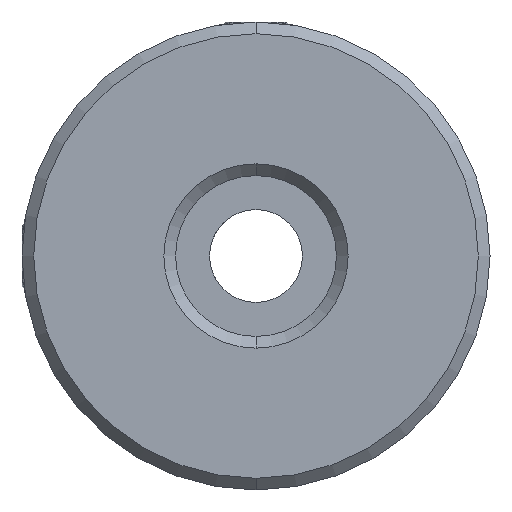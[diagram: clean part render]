
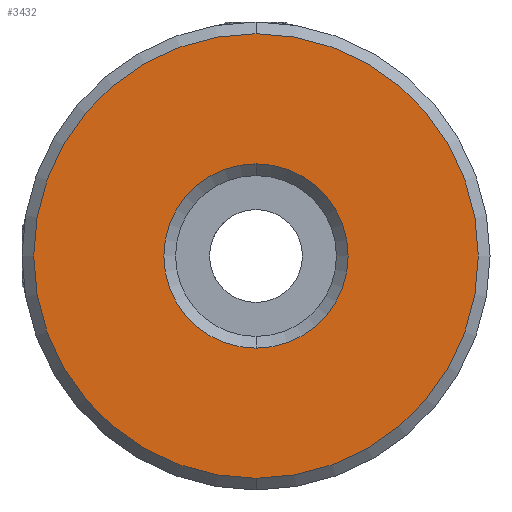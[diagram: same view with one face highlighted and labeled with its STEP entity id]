
A CAD part, front view. The second image highlights one B-rep face of the part: STEP entity #3432.
In plain terms, the highlighted planar face has unit normal (0, -1, 0).
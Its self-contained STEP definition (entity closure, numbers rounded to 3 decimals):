
#3 = CARTESIAN_POINT ( 'NONE',  ( -10.188, -0.277, 0.046 ) ) ;
#116 = VERTEX_POINT ( 'NONE', #865 ) ;
#165 = AXIS2_PLACEMENT_3D ( 'NONE', #1403, #1974, #3493 ) ;
#208 = CARTESIAN_POINT ( 'NONE',  ( -10.188, -0.277, 0.046 ) ) ;
#263 = CARTESIAN_POINT ( 'NONE',  ( -10.188, -0.277, -6.254 ) ) ;
#282 = CARTESIAN_POINT ( 'NONE',  ( -10.188, -0.277, 6.346 ) ) ;
#369 = DIRECTION ( 'NONE',  ( 0., 1., 0. ) ) ;
#408 = CARTESIAN_POINT ( 'NONE',  ( -10.188, -0.277, 0.046 ) ) ;
#410 = VERTEX_POINT ( 'NONE', #525 ) ;
#473 = DIRECTION ( 'NONE',  ( 0., 0., 1. ) ) ;
#520 = AXIS2_PLACEMENT_3D ( 'NONE', #2278, #1993, #2246 ) ;
#525 = CARTESIAN_POINT ( 'NONE',  ( -10.188, -0.277, -15.154 ) ) ;
#553 = CIRCLE ( 'NONE', #691, 6.3 ) ;
#606 = EDGE_CURVE ( 'NONE', #709, #2138, #553, .T. ) ;
#691 = AXIS2_PLACEMENT_3D ( 'NONE', #3, #369, #1157 ) ;
#709 = VERTEX_POINT ( 'NONE', #263 ) ;
#865 = CARTESIAN_POINT ( 'NONE',  ( -10.188, -0.277, 15.246 ) ) ;
#916 = EDGE_CURVE ( 'NONE', #410, #116, #2920, .T. ) ;
#1157 = DIRECTION ( 'NONE',  ( 0., 0., 1. ) ) ;
#1240 = ORIENTED_EDGE ( 'NONE', *, *, #1413, .T. ) ;
#1357 = DIRECTION ( 'NONE',  ( 0., -1., 0. ) ) ;
#1397 = EDGE_CURVE ( 'NONE', #116, #410, #2293, .T. ) ;
#1403 = CARTESIAN_POINT ( 'NONE',  ( -10.188, -0.277, 0.046 ) ) ;
#1413 = EDGE_CURVE ( 'NONE', #2138, #709, #2724, .T. ) ;
#1934 = AXIS2_PLACEMENT_3D ( 'NONE', #208, #1357, #3689 ) ;
#1974 = DIRECTION ( 'NONE',  ( 0., 1., 0. ) ) ;
#1993 = DIRECTION ( 'NONE',  ( 0., 1., 0. ) ) ;
#2048 = FACE_BOUND ( 'NONE', #2816, .T. ) ;
#2138 = VERTEX_POINT ( 'NONE', #282 ) ;
#2246 = DIRECTION ( 'NONE',  ( 0., 0., 1. ) ) ;
#2278 = CARTESIAN_POINT ( 'NONE',  ( -10.188, -0.277, 0.046 ) ) ;
#2293 = CIRCLE ( 'NONE', #1934, 15.2 ) ;
#2442 = ORIENTED_EDGE ( 'NONE', *, *, #1397, .T. ) ;
#2492 = ORIENTED_EDGE ( 'NONE', *, *, #916, .T. ) ;
#2496 = ORIENTED_EDGE ( 'NONE', *, *, #606, .T. ) ;
#2555 = PLANE ( 'NONE',  #165 ) ;
#2724 = CIRCLE ( 'NONE', #520, 6.3 ) ;
#2816 = EDGE_LOOP ( 'NONE', ( #2496, #1240 ) ) ;
#2920 = CIRCLE ( 'NONE', #3407, 15.2 ) ;
#2990 = EDGE_LOOP ( 'NONE', ( #2442, #2492 ) ) ;
#3407 = AXIS2_PLACEMENT_3D ( 'NONE', #408, #3639, #473 ) ;
#3432 = ADVANCED_FACE ( 'NONE', ( #3472, #2048 ), #2555, .F. ) ;
#3472 = FACE_OUTER_BOUND ( 'NONE', #2990, .T. ) ;
#3493 = DIRECTION ( 'NONE',  ( 0., 0., 1. ) ) ;
#3639 = DIRECTION ( 'NONE',  ( 0., -1., 0. ) ) ;
#3689 = DIRECTION ( 'NONE',  ( 0., 0., 1. ) ) ;
